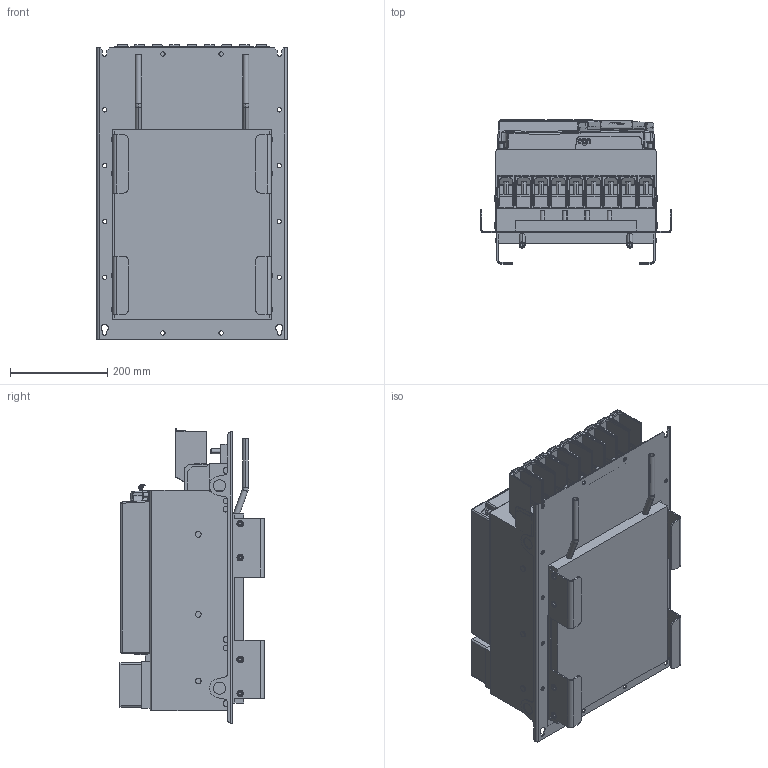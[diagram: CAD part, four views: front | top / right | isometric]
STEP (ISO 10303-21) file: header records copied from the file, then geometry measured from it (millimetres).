
FILE_DESCRIPTION (( 'STEP AP214' ), '1' );
FILE_NAME ('10060971_000.STEP', '2021-03-02T13:36:38', ( '' ), ( '' ), 'SwSTEP 2.0', 'SolidWorks 2019', '' );
FILE_SCHEMA (( 'AUTOMOTIVE_DESIGN' ));
Length unit declared in the file: millimetre
Products named in the file (13): 10061523_000; 10058413_000; 10060971_000; 10059764_000_Blindabdeckung (Kundenmodell); 10061503_000; 10045475_000_Geh„usebaugruppe F6-7 (Kundenmodell); 10060970_000_Leistungsteil F6-7 TW5 (Kundenmodell); 10061502_000_Deckel (Kundenmodell); 10043622_000_70F6 Klemme (Kundenmodell); 10061504_000_Gehеsebaugruppe ohne L’terkarte; 10035735_000_Kundenmodell; 10061522_000; 10059765_000
Assembly tree (12 placements, depth 4):
  10060971_000
    10060970_000_Leistungsteil F6-7 TW5 (Kundenmodell)
      10043622_000_70F6 Klemme (Kundenmodell)
        10061522_000
      10061523_000
    10045475_000_Geh„usebaugruppe F6-7 (Kundenmodell)
      10061502_000_Deckel (Kundenmodell)
        10061503_000
      10061504_000_Gehеsebaugruppe ohne L’terkarte
    10035735_000_Kundenmodell
      10059764_000_Blindabdeckung (Kundenmodell)
        10059765_000
      10058413_000
Bounding box: 392 x 296.9 x 606.26 mm (x, y, z)
Volume: 40006551.5 mm3; surface area: 2110404 mm2
Topology: 12 solids, 12 shells, 3084 faces, 7883 edges, 4838 vertices
Faces by surface type: plane 1555, cylinder 946, bspline 268, sphere 172, torus 89, cone 54
Entity records: 99580 total; most frequent: CARTESIAN_POINT 26913, ORIENTED_EDGE 15544, DIRECTION 14329, EDGE_CURVE 7772, LINE 4917, VECTOR 4917, VERTEX_POINT 4835, AXIS2_PLACEMENT_3D 4706
